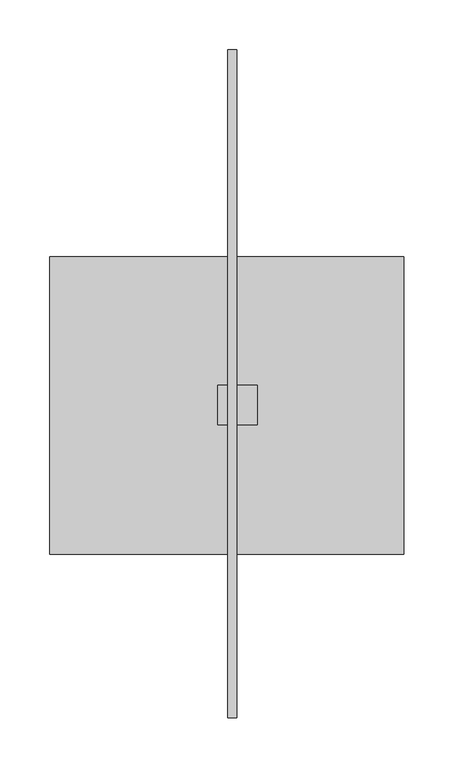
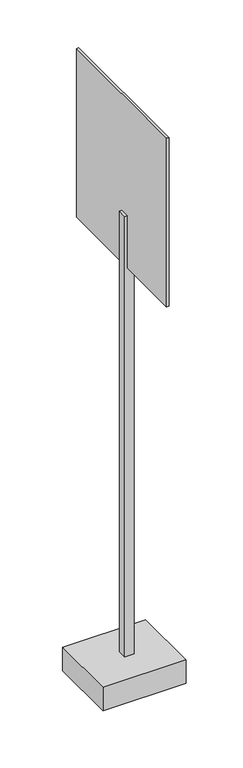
"""IFC4 building model written with IfcOpenShell, lengths in millimetres: furniture geometry, Fixierte Ausstattung Signaletik : Signaletik."""

import ifcopenshell
import ifcopenshell.guid

model = None  # the IFC model being written
_history = None  # IfcOwnerHistory: only IFC2X3 demands one
_inside = {}  # id of a spatial element -> (the spatial element, [elements in it])
_under = {}  # id of a project, library or spatial element -> (it, [spatial elements below it])
_declared = {}  # id of a project -> (the project, [libraries it declares])
_typed = {}  # id of a type object -> (the type object, [elements of that type])
_made_of = {}  # id of a material, layer set ... -> (it, [elements and type objects made of it])


def new_model(schema):
    """Start an empty IFC model of exactly this schema.

    Asked for "IFC4X3", IfcOpenShell would pick the latest addendum, in which some entities
    have other attributes; the version numbers below select the first issue.
    IFC2X3 requires an IfcOwnerHistory on every rooted entity: one is made here for all.
    """
    global model, _history
    if schema == "IFC4X3":
        model = ifcopenshell.file(schema_version=(4, 3, 0, 0))
    else:
        model = ifcopenshell.file(schema=schema)
    _inside.clear()
    _under.clear()
    _declared.clear()
    _typed.clear()
    _made_of.clear()
    _history = None
    if model.schema == "IFC2X3":
        org = make("IfcOrganization", Name="unknown")
        user = make(
            "IfcPersonAndOrganization",
            ThePerson=make("IfcPerson", FamilyName="unknown"),
            TheOrganization=org,
        )
        app = make(
            "IfcApplication",
            ApplicationDeveloper=org,
            Version="unknown",
            ApplicationFullName="unknown",
            ApplicationIdentifier="unknown",
        )
        _history = make(
            "IfcOwnerHistory",
            OwningUser=user,
            OwningApplication=app,
            ChangeAction="ADDED",
            CreationDate=0,
        )
    return model


def make(cls, **values):
    """One entity of the class cls with the attributes given. An attribute that is None is left unset."""
    return model.create_entity(
        cls, **{name: value for name, value in values.items() if value is not None}
    )


def rooted(cls, **values):
    """An entity with a GlobalId (a new one), such as an element, a storey or a relation."""
    return make(cls, GlobalId=ifcopenshell.guid.new(), OwnerHistory=_history, **values)


def si_unit(unit_type, name, prefix=None):
    """IfcSIUnit, for example si_unit("LENGTHUNIT", "METRE", prefix="MILLI")."""
    return make("IfcSIUnit", UnitType=unit_type, Prefix=prefix, Name=name)


def assignment(units):
    """IfcUnitAssignment: the units of a project."""
    return None if units is None else make("IfcUnitAssignment", Units=units)


def point(xyz):
    """IfcCartesianPoint."""
    return None if xyz is None else make("IfcCartesianPoint", Coordinates=xyz)


def direction(xyz):
    """IfcDirection."""
    return None if xyz is None else make("IfcDirection", DirectionRatios=xyz)


def frame(location, z_axis=None, x_axis=None):
    """IfcAxis2Placement3D, a coordinate frame: its origin and axes. An axis left out is left unset."""
    return make(
        "IfcAxis2Placement3D",
        Location=point(location),
        Axis=direction(z_axis),
        RefDirection=direction(x_axis),
    )


def origin():
    """The frame at (0, 0, 0) with its axes left unset."""
    return frame((0.0, 0.0, 0.0))


def origin_with_axes():
    """The frame at (0, 0, 0) with the z axis (0, 0, 1) and the x axis (1, 0, 0) written out."""
    return frame((0.0, 0.0, 0.0), z_axis=(0.0, 0.0, 1.0), x_axis=(1.0, 0.0, 0.0))


def place(relative_to, where):
    """IfcLocalPlacement: puts the frame where relative to a parent placement (None: the world)."""
    return make(
        "IfcLocalPlacement", PlacementRelTo=relative_to, RelativePlacement=where
    )


def context(
    kind, dimensions, precision=None, world=None, true_north=None, identifier=None
):
    """IfcGeometricRepresentationContext, for example the 3D "Model" context."""
    return make(
        "IfcGeometricRepresentationContext",
        ContextIdentifier=identifier,
        ContextType=kind,
        CoordinateSpaceDimension=dimensions,
        Precision=precision,
        WorldCoordinateSystem=world,
        TrueNorth=true_north,
    )


def project(units=None, contexts=None):
    """IfcProject with its units and contexts."""
    return rooted(
        "IfcProject",
        Name="project",
        RepresentationContexts=contexts,
        UnitsInContext=assignment(units),
    )


def spatial(cls, under=None, at=None, **own):
    """A site, building, storey or space (cls), placed at a placement, below another one or the project."""
    s = rooted(cls, ObjectPlacement=at, **own)
    if under is not None:
        _under.setdefault(under.id(), (under, []))[1].append(s)
    return s


def polyline(points):
    """IfcPolyline through the points."""
    return make("IfcPolyline", Points=[point(p) for p in points])


def outline(outer, holes=None, kind="AREA"):
    """IfcArbitraryClosedProfileDef: a profile drawn as a closed curve; with holes, ...WithVoids."""
    if holes is None:
        return make("IfcArbitraryClosedProfileDef", ProfileType=kind, OuterCurve=outer)
    return make(
        "IfcArbitraryProfileDefWithVoids",
        ProfileType=kind,
        OuterCurve=outer,
        InnerCurves=holes,
    )


def extrude(swept, where, along, depth):
    """IfcExtrudedAreaSolid: the profile swept, set in the frame where, extruded along a direction by depth."""
    return make(
        "IfcExtrudedAreaSolid",
        SweptArea=swept,
        Position=where,
        ExtrudedDirection=direction(along),
        Depth=depth,
    )


def shape(context_of_items, identifier, shape_type, items):
    """IfcShapeRepresentation: the items that make up one representation, for example the "Body"."""
    return make(
        "IfcShapeRepresentation",
        ContextOfItems=context_of_items,
        RepresentationIdentifier=identifier,
        RepresentationType=shape_type,
        Items=items,
    )


def source(mapping_origin, context_of_items, identifier, shape_type, items):
    """IfcRepresentationMap: a shape defined once, which mapped items show again and again."""
    return make(
        "IfcRepresentationMap",
        MappingOrigin=mapping_origin,
        MappedRepresentation=shape(context_of_items, identifier, shape_type, items),
    )


def transform(
    local_origin,
    x_axis=None,
    y_axis=None,
    z_axis=None,
    scale=None,
    scale2=None,
    scale3=None,
    uniform=True,
):
    """IfcCartesianTransformationOperator3D, or its non-uniform kind. x_axis, y_axis, z_axis: its Axis1, 2, 3."""
    if uniform:
        return make(
            "IfcCartesianTransformationOperator3D",
            Axis1=direction(x_axis),
            Axis2=direction(y_axis),
            LocalOrigin=point(local_origin),
            Scale=scale,
            Axis3=direction(z_axis),
        )
    return make(
        "IfcCartesianTransformationOperator3DnonUniform",
        Axis1=direction(x_axis),
        Axis2=direction(y_axis),
        LocalOrigin=point(local_origin),
        Scale=scale,
        Axis3=direction(z_axis),
        Scale2=scale2,
        Scale3=scale3,
    )


def mapped(mapping_source, mapping_target):
    """IfcMappedItem: shows the shape of a source again, moved by a transform."""
    return make(
        "IfcMappedItem", MappingSource=mapping_source, MappingTarget=mapping_target
    )


def made_of(thing, what):
    """Note that an element or type object is made of a material, layer set ...; save() writes the relation."""
    if what is not None:
        _made_of.setdefault(what.id(), (what, []))[1].append(thing)
    return thing


def element(
    cls,
    number,
    at=None,
    inside=None,
    cuts=None,
    type_object=None,
    material=None,
    context=None,
    identifier="Body",
    shape_type=None,
    held_by="IfcProductDefinitionShape",
    body=None,
    shapes=None,
    **own,
):
    """One element of the class cls, such as IfcWall. Its Tag is "e" and its number.

    at: its placement. inside: the storey or other place that contains it. cuts: it is an
    opening in that element (IfcRelVoidsElement). A single representation is given by context,
    identifier, shape_type and body (its items); several are given by shapes. held_by: the class
    of the entity that holds the representations. save() writes the other relations.
    """
    e = rooted(cls, Tag="e%d" % number, ObjectPlacement=at, **own)
    if body is not None:
        shapes = [shape(context, identifier, shape_type, body)]
    if shapes is not None:
        e.Representation = make(held_by, Representations=shapes)
    if inside is not None:
        _inside.setdefault(inside.id(), (inside, []))[1].append(e)
    if cuts is not None:
        rooted(
            "IfcRelVoidsElement", RelatingBuildingElement=cuts, RelatedOpeningElement=e
        )
    if type_object is not None:
        _typed.setdefault(type_object.id(), (type_object, []))[1].append(e)
    return made_of(e, material)


def aggregate(whole, parts):
    """IfcRelAggregates: a whole, such as a stair, and the parts it consists of."""
    return rooted("IfcRelAggregates", RelatingObject=whole, RelatedObjects=parts)


def save(model, path):
    """Write the relations noted so far, then the file.

    IfcRelAggregates (storeys below a building ...), IfcRelContainedInSpatialStructure (elements
    in a storey), IfcRelDefinesByType, IfcRelAssociatesMaterial and IfcRelDeclares: one each for
    every whole, place, type object, material and project.
    """
    for whole, parts in _under.values():
        aggregate(whole, parts)
    for where, things in _inside.values():
        rooted(
            "IfcRelContainedInSpatialStructure",
            RelatedElements=things,
            RelatingStructure=where,
        )
    for kind, things in _typed.values():
        rooted("IfcRelDefinesByType", RelatedObjects=things, RelatingType=kind)
    for what, things in _made_of.values():
        rooted("IfcRelAssociatesMaterial", RelatedObjects=things, RelatingMaterial=what)
    for by, libraries in _declared.values():
        rooted("IfcRelDeclares", RelatingContext=by, RelatedDefinitions=libraries)
    model.write(path)


def furniture_f3e5ba3b(model_context):
    return source(origin(), model_context, "Body", "SweptSolid", [
        extrude(outline(polyline([(167.2887822, -70.6607698), (167.2887822, -369.6007152), (-188.7112178, -369.6007152), (-188.7112178, -70.6607698), (167.2887822, -70.6607698)])), frame((0.0, 0.0, -105.0), z_axis=(0.0, 0.0, 1.0), x_axis=(1.0, 0.0, 0.0)), (0.0, 0.0, 1.0), 105.0),
        extrude(outline(polyline([(20.0, -240.0), (-20.0, -240.0), (-20.0, -200.0), (20.0, -200.0), (20.0, -240.0)])), origin_with_axes(), (0.0, 0.0, 1.0), 2000.0),
        extrude(outline(polyline([(-10.0, -534.3884926), (-10.0, 137.0), (-0.6277135, 137.0), (-0.6277135, -534.3884926), (-10.0, -534.3884926)])), frame((0.0, 0.0, 1764.0640071), z_axis=(0.0, 0.0, 1.0), x_axis=(1.0, 0.0, 0.0)), (0.0, 0.0, 1.0), 765.2980416),
    ])


if __name__ == "__main__":
    model = new_model("IFC4")
    model_context = context("Model", 3, world=origin())
    ifc_project = project(units=[si_unit("LENGTHUNIT", "METRE", prefix="MILLI")], contexts=[model_context])
    site = spatial("IfcSite", under=ifc_project)
    building = spatial("IfcBuilding", under=site)
    placement = place(None, origin())
    furniture_shape = furniture_f3e5ba3b(model_context)
    element("IfcFurniture", 1, ObjectType="Fixierte Ausstattung Signaletik : Signaletik", at=placement, inside=building, context=model_context, shape_type="MappedRepresentation", body=[
        mapped(furniture_shape, transform((0.0, 0.0, 0.0), x_axis=(1.0, 0.0, 0.0), y_axis=(0.0, 1.0, 0.0), z_axis=(0.0, 0.0, 1.0))),
    ])
    save(model, "model.ifc")
